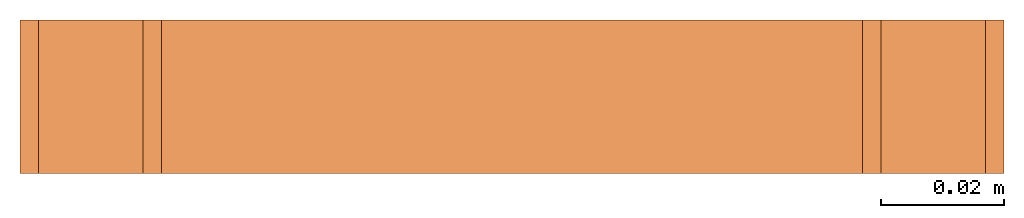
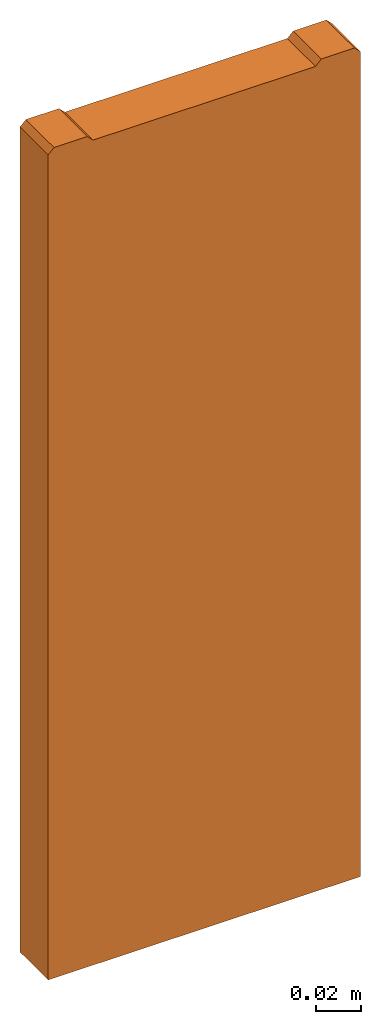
# One storey: 1 proxy.
"""IFC2X3 building model written with IfcOpenShell, lengths in millimetres."""

from ifc_helpers import new_model, entity, si_unit, converted_unit, direction, frame, origin, place, context, subcontext, project, spatial, polyline, outline, extrude, source, transform, mapped, material, element, save


model = new_model("IFC2X3")

# Units and contexts
model_context = context("Model", 3, precision=1e-06, world=origin(), true_north=direction((2.0, 6.12303176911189e-17, 1.0)))
context_of_model = context(None, 3, precision=1e-06, world=origin(), true_north=direction((2.0, 6.12303176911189e-17, 1.0)))
body_context = subcontext(model_context, "Body", "Model", "MODEL_VIEW")
ifc_project = project(units=[si_unit("LENGTHUNIT", "METRE", prefix="MILLI"), si_unit("AREAUNIT", "SQUARE_METRE", prefix="MILLI"), si_unit("VOLUMEUNIT", "CUBIC_METRE", prefix="MILLI"), converted_unit("PLANEANGLEUNIT", "DEGREE", entity("IfcRatioMeasure", 0.0174532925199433), si_unit("PLANEANGLEUNIT", "RADIAN"), dimensions=[0, 0, 0, 0, 0, 0, 0]), si_unit("TIMEUNIT", "SECOND")], contexts=[model_context, context_of_model])

# Site, building, storey
site_placement = place(None, origin())
site = spatial("IfcSite", under=ifc_project, at=site_placement, Name="Default", CompositionType="ELEMENT")
building_placement = place(site_placement, origin())
building = spatial("IfcBuilding", under=site, at=building_placement, CompositionType="ELEMENT")
storey_placement = place(building_placement, frame((0.0, 0.0, -4600.0)))
storey = spatial("IfcBuildingStorey", under=building, at=storey_placement, Name="B.O. Footing", CompositionType="ELEMENT", Elevation=-4600.0)

# Proxy
ifc_material = material(Name="Acetal Resin, Black")
shared_shape = source(origin(), body_context, "Body", "SweptSolid", [
    extrude(outline(polyline([(-358.799946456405, -80.0), (88.1999866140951, -80.0), (91.199986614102, -77.0), (91.1999866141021, -60.0), (88.1999866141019, -57.0), (88.1999866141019, 57.0), (91.199986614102, 60.0), (91.199986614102, 77.0), (88.1999866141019, 80.0), (-358.799946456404, 80.0), (-358.799946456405, -80.0)])), frame((0.0, 0.0, -91.1999866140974), z_axis=(0.0, 1.0, 0.0), x_axis=(0.0, 0.0, 1.0)), (0.0, 0.0, 1.0), 25.0),
])
proxy_placement = place(storey_placement, frame((-63315.5678793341, 29124.476162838, 300.0)))
element("IfcBuildingElementProxy", 1, at=proxy_placement, inside=storey, material=ifc_material, Name="Civil-Drainage-Channel-ACO-RoadDrain 100:32506 - PD100 F 506 Closing endcap:32506 - PD100 F 506 Closing endcap", ObjectType="32506 - PD100 F 506 Closing endcap", CompositionType="ELEMENT", context=body_context, shape_type="MappedRepresentation", body=[
    mapped(shared_shape, transform((0.0, 0.0, 0.0), scale=1.0)),
])

save(model, "model.ifc")
